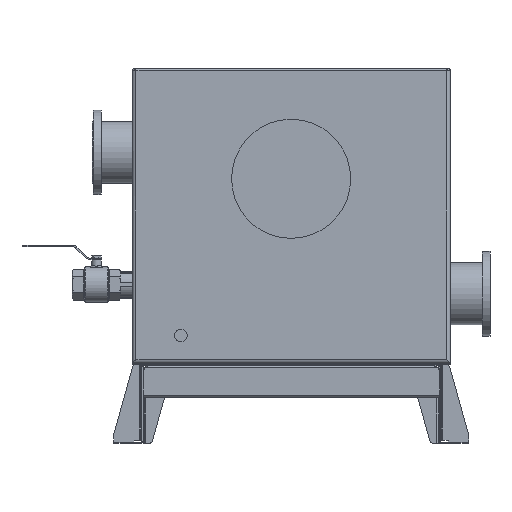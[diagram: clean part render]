
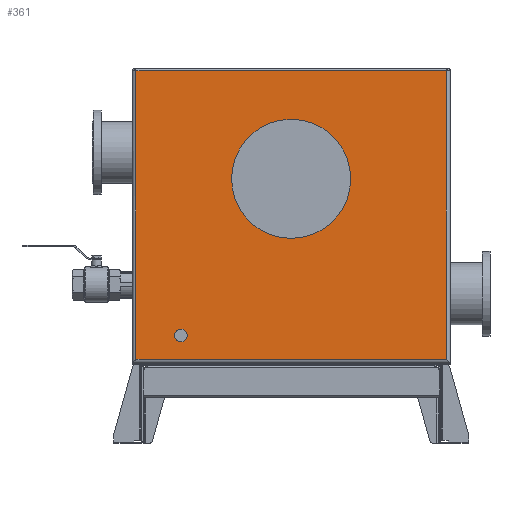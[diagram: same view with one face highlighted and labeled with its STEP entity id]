
A CAD part, left-side view. The second image highlights one B-rep face of the part: STEP entity #361.
In plain terms, the highlighted planar face has unit normal (-1, 0, 0).
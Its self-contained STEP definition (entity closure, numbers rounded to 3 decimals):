
#361=ADVANCED_FACE('',(#3378,#3380,#3382),#3384,.T.);
#3378=FACE_BOUND('',#3379,.T.);
#3379=EDGE_LOOP('',(#10062,#10063,#10064,#10065));
#3380=FACE_BOUND('',#3381,.T.);
#3381=EDGE_LOOP('',(#10066));
#3382=FACE_BOUND('',#3383,.T.);
#3383=EDGE_LOOP('',(#10067,#10068));
#3384=PLANE('',#3385);
#3385=AXIS2_PLACEMENT_3D('',#3386,#3387,#3388);
#3386=CARTESIAN_POINT('',(-618.4,-405.,622.7));
#3387=DIRECTION('',(-1.,0.,0.));
#3388=DIRECTION('',(0.,0.,1.));
#10062=ORIENTED_EDGE('',*,*,#12786,.F.);
#10063=ORIENTED_EDGE('',*,*,#13178,.T.);
#10064=ORIENTED_EDGE('',*,*,#12790,.F.);
#10065=ORIENTED_EDGE('',*,*,#12788,.F.);
#10066=ORIENTED_EDGE('',*,*,#13179,.F.);
#10067=ORIENTED_EDGE('',*,*,#13180,.F.);
#10068=ORIENTED_EDGE('',*,*,#13181,.T.);
#12786=EDGE_CURVE('',#15166,#15168,#15169,.F.);
#12788=EDGE_CURVE('',#15168,#15171,#15172,.T.);
#12790=EDGE_CURVE('',#15171,#15174,#15175,.T.);
#13178=EDGE_CURVE('',#15166,#15174,#15844,.T.);
#13179=EDGE_CURVE('',#15845,#15845,#15846,.T.);
#13180=EDGE_CURVE('',#15847,#15848,#15849,.T.);
#13181=EDGE_CURVE('',#15847,#15848,#15850,.T.);
#15166=VERTEX_POINT('',#19878);
#15168=VERTEX_POINT('',#19883);
#15169=LINE('',#19884,#19885);
#15171=VERTEX_POINT('',#19891);
#15172=LINE('',#19892,#19893);
#15174=VERTEX_POINT('',#19899);
#15175=LINE('',#19900,#19901);
#15844=LINE('',#21816,#21817);
#15845=VERTEX_POINT('',#21819);
#15846=CIRCLE('',#21820,16.);
#15847=VERTEX_POINT('',#21824);
#15848=VERTEX_POINT('',#21825);
#15849=CIRCLE('',#21826,151.2);
#15850=LINE('',#21830,#21831);
#19878=CARTESIAN_POINT('',(-618.4,-394.,746.));
#19883=CARTESIAN_POINT('',(-618.4,-394.,13.2));
#19884=CARTESIAN_POINT('',(-618.4,-394.,13.2));
#19885=VECTOR('',#19886,1.);
#19886=DIRECTION('',(0.,0.,1.));
#19891=CARTESIAN_POINT('',(-618.4,394.,13.2));
#19892=CARTESIAN_POINT('',(-618.4,-394.,13.2));
#19893=VECTOR('',#19894,1.);
#19894=DIRECTION('',(0.,1.,0.));
#19899=CARTESIAN_POINT('',(-618.4,394.,746.));
#19900=CARTESIAN_POINT('',(-618.4,394.,13.2));
#19901=VECTOR('',#19902,1.);
#19902=DIRECTION('',(0.,0.,1.));
#21816=CARTESIAN_POINT('',(-618.4,-394.,746.));
#21817=VECTOR('',#21818,1.);
#21818=DIRECTION('',(0.,1.,0.));
#21819=CARTESIAN_POINT('',(-618.4,264.,73.5));
#21820=AXIS2_PLACEMENT_3D('',#21821,#21822,#21823);
#21821=CARTESIAN_POINT('',(-618.4,280.,73.5));
#21822=DIRECTION('',(-1.,0.,0.));
#21823=DIRECTION('',(0.,-1.,0.));
#21824=CARTESIAN_POINT('',(-618.4,-0.504,320.301));
#21825=CARTESIAN_POINT('',(-618.4,0.504,320.301));
#21826=AXIS2_PLACEMENT_3D('',#21827,#21828,#21829);
#21827=CARTESIAN_POINT('',(-618.4,0.,471.5));
#21828=DIRECTION('',(-1.,0.,0.));
#21829=DIRECTION('',(0.,-0.003,-1.));
#21830=CARTESIAN_POINT('',(-618.4,-0.504,320.301));
#21831=VECTOR('',#21832,1.);
#21832=DIRECTION('',(0.,1.,0.));
